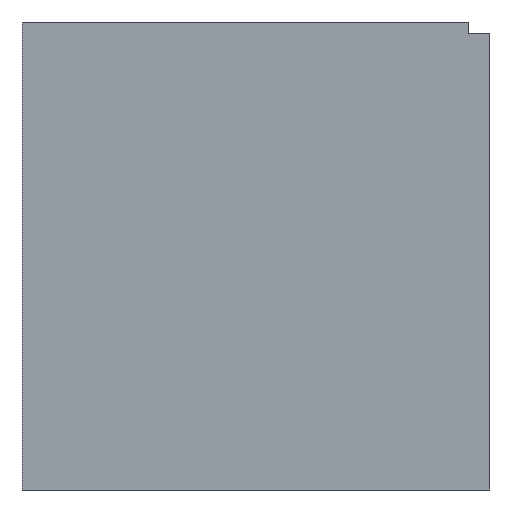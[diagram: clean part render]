
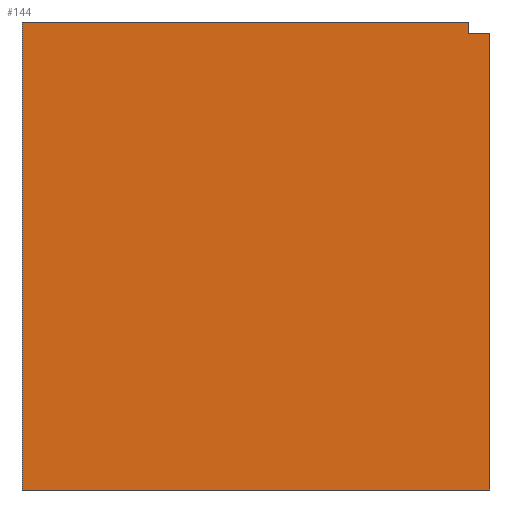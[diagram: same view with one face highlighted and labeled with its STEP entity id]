
A CAD part, left-side view. The second image highlights one B-rep face of the part: STEP entity #144.
In plain terms, the highlighted planar face has unit normal (-1, 0, 0).
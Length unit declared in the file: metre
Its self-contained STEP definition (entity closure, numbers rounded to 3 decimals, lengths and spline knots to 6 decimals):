
#36=ORIENTED_EDGE('',*,*,#50,.F.);
#37=ORIENTED_EDGE('',*,*,#54,.F.);
#38=ORIENTED_EDGE('',*,*,#57,.T.);
#39=ORIENTED_EDGE('',*,*,#60,.T.);
#40=ORIENTED_EDGE('',*,*,#63,.F.);
#41=ORIENTED_EDGE('',*,*,#65,.F.);
#50=EDGE_CURVE('',#68,#69,#80,.T.);
#54=EDGE_CURVE('',#71,#68,#84,.T.);
#57=EDGE_CURVE('',#71,#73,#87,.T.);
#60=EDGE_CURVE('',#73,#75,#90,.T.);
#63=EDGE_CURVE('',#77,#75,#93,.T.);
#65=EDGE_CURVE('',#69,#77,#95,.T.);
#68=VERTEX_POINT('',#209);
#69=VERTEX_POINT('',#211);
#71=VERTEX_POINT('',#217);
#73=VERTEX_POINT('',#223);
#75=VERTEX_POINT('',#229);
#77=VERTEX_POINT('',#235);
#80=LINE('',#210,#98);
#84=LINE('',#218,#102);
#87=LINE('',#224,#105);
#90=LINE('',#230,#108);
#93=LINE('',#236,#111);
#95=LINE('',#239,#113);
#98=VECTOR('',#173,1.);
#102=VECTOR('',#179,1.);
#105=VECTOR('',#184,1.);
#108=VECTOR('',#189,1.);
#111=VECTOR('',#194,1.);
#113=VECTOR('',#198,1.);
#120=EDGE_LOOP('',(#36,#37,#38,#39,#40,#41));
#128=FACE_BOUND('',#120,.T.);
#136=PLANE('',#165);
#144=ADVANCED_FACE('',(#128),#136,.T.);
#165=AXIS2_PLACEMENT_3D('',#240,#199,#200);
#173=DIRECTION('',(0.,0.,-1.));
#179=DIRECTION('',(0.,-1.,0.));
#184=DIRECTION('',(0.,0.,-1.));
#189=DIRECTION('',(0.,-1.,0.));
#194=DIRECTION('',(0.,0.,-1.));
#198=DIRECTION('',(0.,-1.,0.));
#199=DIRECTION('',(-1.,0.,0.));
#200=DIRECTION('',(0.,-1.,0.));
#209=CARTESIAN_POINT('',(-0.037,-0.025061,0.005516));
#210=CARTESIAN_POINT('',(-0.037,-0.025061,0.005468));
#211=CARTESIAN_POINT('',(-0.037,-0.025061,0.005421));
#217=CARTESIAN_POINT('',(-0.037,-0.021385,0.005516));
#218=CARTESIAN_POINT('',(-0.037,-0.023223,0.005516));
#223=CARTESIAN_POINT('',(-0.037,-0.021385,0.001662));
#224=CARTESIAN_POINT('',(-0.037,-0.021385,0.003589));
#229=CARTESIAN_POINT('',(-0.037,-0.025238,0.001662));
#230=CARTESIAN_POINT('',(-0.037,-0.023311,0.001662));
#235=CARTESIAN_POINT('',(-0.037,-0.025238,0.005421));
#236=CARTESIAN_POINT('',(-0.037,-0.025238,0.003541));
#239=CARTESIAN_POINT('',(-0.037,-0.02515,0.005421));
#240=CARTESIAN_POINT('',(-0.037,-0.0325,0.));
